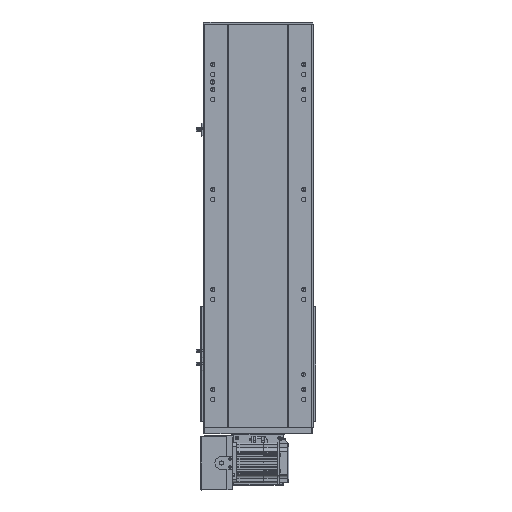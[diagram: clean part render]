
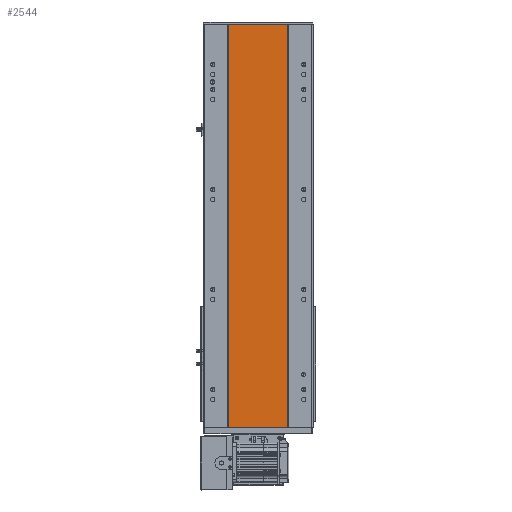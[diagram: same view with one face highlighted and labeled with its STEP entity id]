
A CAD part, front view. The second image highlights one B-rep face of the part: STEP entity #2544.
In plain terms, the highlighted planar face has unit normal (0, -1, 0).
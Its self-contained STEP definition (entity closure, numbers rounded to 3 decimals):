
#1343 = CARTESIAN_POINT ( 'NONE',  ( 432.408, 155.016, 807. ) ) ;
#2129 = LINE ( 'NONE', #29741, #36787 ) ;
#2544 = ADVANCED_FACE ( 'NONE', ( #14418 ), #6543, .F. ) ;
#2758 = LINE ( 'NONE', #14424, #24119 ) ;
#5456 = LINE ( 'NONE', #35828, #6747 ) ;
#6543 = PLANE ( 'NONE',  #32714 ) ;
#6747 = VECTOR ( 'NONE', #39332, 1000. ) ;
#6941 = ORIENTED_EDGE ( 'NONE', *, *, #37131, .T. ) ;
#13531 = EDGE_CURVE ( 'NONE', #36454, #39459, #2129, .T. ) ;
#14017 = ORIENTED_EDGE ( 'NONE', *, *, #44998, .T. ) ;
#14163 = CARTESIAN_POINT ( 'NONE',  ( 551.58, 155.016, 807. ) ) ;
#14418 = FACE_OUTER_BOUND ( 'NONE', #29829, .T. ) ;
#14424 = CARTESIAN_POINT ( 'NONE',  ( 0., 155.016, 807. ) ) ;
#14651 = ORIENTED_EDGE ( 'NONE', *, *, #13531, .F. ) ;
#17896 = DIRECTION ( 'NONE',  ( 1., 0., 0. ) ) ;
#18939 = DIRECTION ( 'NONE',  ( 1., 0., 0. ) ) ;
#19640 = CARTESIAN_POINT ( 'NONE',  ( 551.58, 155.016, 0. ) ) ;
#21706 = CARTESIAN_POINT ( 'NONE',  ( 0., 155.016, 0. ) ) ;
#21752 = DIRECTION ( 'NONE',  ( 0., 0., 1. ) ) ;
#23192 = ORIENTED_EDGE ( 'NONE', *, *, #48051, .F. ) ;
#24119 = VECTOR ( 'NONE', #18939, 1000. ) ;
#29741 = CARTESIAN_POINT ( 'NONE',  ( 551.58, 155.016, 807. ) ) ;
#29829 = EDGE_LOOP ( 'NONE', ( #14017, #14651, #23192, #6941 ) ) ;
#29854 = DIRECTION ( 'NONE',  ( 0., 1., 0. ) ) ;
#32714 = AXIS2_PLACEMENT_3D ( 'NONE', #48990, #29854, #21752 ) ;
#35828 = CARTESIAN_POINT ( 'NONE',  ( 432.408, 155.016, 807. ) ) ;
#35991 = VERTEX_POINT ( 'NONE', #1343 ) ;
#36446 = VERTEX_POINT ( 'NONE', #40950 ) ;
#36454 = VERTEX_POINT ( 'NONE', #14163 ) ;
#36787 = VECTOR ( 'NONE', #42265, 1000. ) ;
#37131 = EDGE_CURVE ( 'NONE', #35991, #36446, #5456, .T. ) ;
#39332 = DIRECTION ( 'NONE',  ( 0., 0., -1. ) ) ;
#39459 = VERTEX_POINT ( 'NONE', #19640 ) ;
#40397 = LINE ( 'NONE', #21706, #47329 ) ;
#40950 = CARTESIAN_POINT ( 'NONE',  ( 432.408, 155.016, 0. ) ) ;
#42265 = DIRECTION ( 'NONE',  ( 0., 0., -1. ) ) ;
#44998 = EDGE_CURVE ( 'NONE', #36446, #39459, #40397, .T. ) ;
#47329 = VECTOR ( 'NONE', #17896, 1000. ) ;
#48051 = EDGE_CURVE ( 'NONE', #35991, #36454, #2758, .T. ) ;
#48990 = CARTESIAN_POINT ( 'NONE',  ( 0., 155.016, 807. ) ) ;
